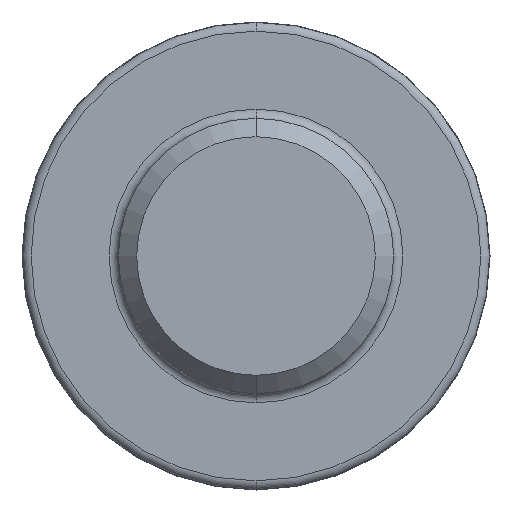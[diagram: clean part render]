
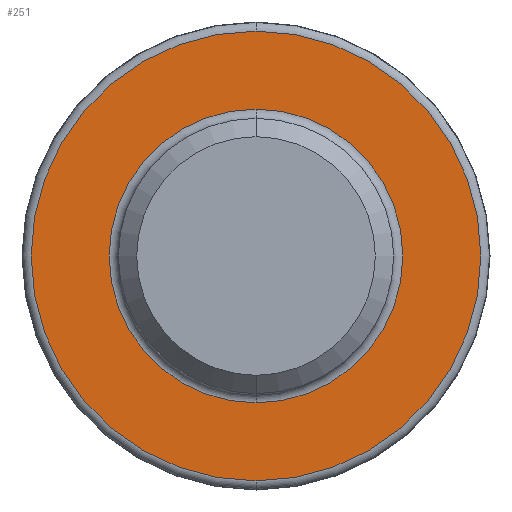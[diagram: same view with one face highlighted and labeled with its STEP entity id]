
A CAD part, front view. The second image highlights one B-rep face of the part: STEP entity #251.
In plain terms, the highlighted planar face has unit normal (0, -1, 0).
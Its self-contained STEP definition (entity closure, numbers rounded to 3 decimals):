
#2 = EDGE_CURVE ( 'NONE', #826, #292, #794, .T. ) ;
#10 = DIRECTION ( 'NONE',  ( 0., 0., 1. ) ) ;
#15 = CARTESIAN_POINT ( 'NONE',  ( 0., -3.2, 0. ) ) ;
#21 = DIRECTION ( 'NONE',  ( 0., 0., 1. ) ) ;
#38 = CARTESIAN_POINT ( 'NONE',  ( 0., -3.2, -4.9 ) ) ;
#50 = CARTESIAN_POINT ( 'NONE',  ( 3., -3.2, 0. ) ) ;
#65 = CARTESIAN_POINT ( 'NONE',  ( 0., -3.2, 4.9 ) ) ;
#79 = AXIS2_PLACEMENT_3D ( 'NONE', #346, #417, #10 ) ;
#98 = EDGE_CURVE ( 'NONE', #292, #826, #365, .T. ) ;
#141 = DIRECTION ( 'NONE',  ( 0., 1., 0. ) ) ;
#160 = CIRCLE ( 'NONE', #757, 3.2 ) ;
#168 = ORIENTED_EDGE ( 'NONE', *, *, #657, .T. ) ;
#190 = CIRCLE ( 'NONE', #731, 3.2 ) ;
#215 = EDGE_LOOP ( 'NONE', ( #168, #478 ) ) ;
#251 = ADVANCED_FACE ( 'NONE', ( #437, #827 ), #490, .F. ) ;
#271 = CARTESIAN_POINT ( 'NONE',  ( 0., -3.2, 0. ) ) ;
#292 = VERTEX_POINT ( 'NONE', #38 ) ;
#331 = DIRECTION ( 'NONE',  ( 0., 0., 1. ) ) ;
#346 = CARTESIAN_POINT ( 'NONE',  ( 0., -3.2, 0. ) ) ;
#365 = CIRCLE ( 'NONE', #79, 4.9 ) ;
#377 = CARTESIAN_POINT ( 'NONE',  ( 0., -3.2, 0. ) ) ;
#378 = DIRECTION ( 'NONE',  ( 0., 1., 0. ) ) ;
#391 = CARTESIAN_POINT ( 'NONE',  ( 0., -3.2, -3.2 ) ) ;
#417 = DIRECTION ( 'NONE',  ( 0., -1., 0. ) ) ;
#423 = DIRECTION ( 'NONE',  ( 0., 1., 0. ) ) ;
#437 = FACE_BOUND ( 'NONE', #215, .T. ) ;
#478 = ORIENTED_EDGE ( 'NONE', *, *, #532, .T. ) ;
#490 = PLANE ( 'NONE',  #814 ) ;
#497 = ORIENTED_EDGE ( 'NONE', *, *, #2, .T. ) ;
#506 = DIRECTION ( 'NONE',  ( 0., 0., 1. ) ) ;
#532 = EDGE_CURVE ( 'NONE', #817, #711, #160, .T. ) ;
#643 = DIRECTION ( 'NONE',  ( 0., -1., 0. ) ) ;
#657 = EDGE_CURVE ( 'NONE', #711, #817, #190, .T. ) ;
#686 = AXIS2_PLACEMENT_3D ( 'NONE', #377, #643, #785 ) ;
#711 = VERTEX_POINT ( 'NONE', #825 ) ;
#731 = AXIS2_PLACEMENT_3D ( 'NONE', #271, #423, #331 ) ;
#745 = EDGE_LOOP ( 'NONE', ( #497, #852 ) ) ;
#757 = AXIS2_PLACEMENT_3D ( 'NONE', #15, #141, #21 ) ;
#785 = DIRECTION ( 'NONE',  ( 0., 0., 1. ) ) ;
#794 = CIRCLE ( 'NONE', #686, 4.9 ) ;
#814 = AXIS2_PLACEMENT_3D ( 'NONE', #50, #378, #506 ) ;
#817 = VERTEX_POINT ( 'NONE', #391 ) ;
#825 = CARTESIAN_POINT ( 'NONE',  ( 0., -3.2, 3.2 ) ) ;
#826 = VERTEX_POINT ( 'NONE', #65 ) ;
#827 = FACE_OUTER_BOUND ( 'NONE', #745, .T. ) ;
#852 = ORIENTED_EDGE ( 'NONE', *, *, #98, .T. ) ;
